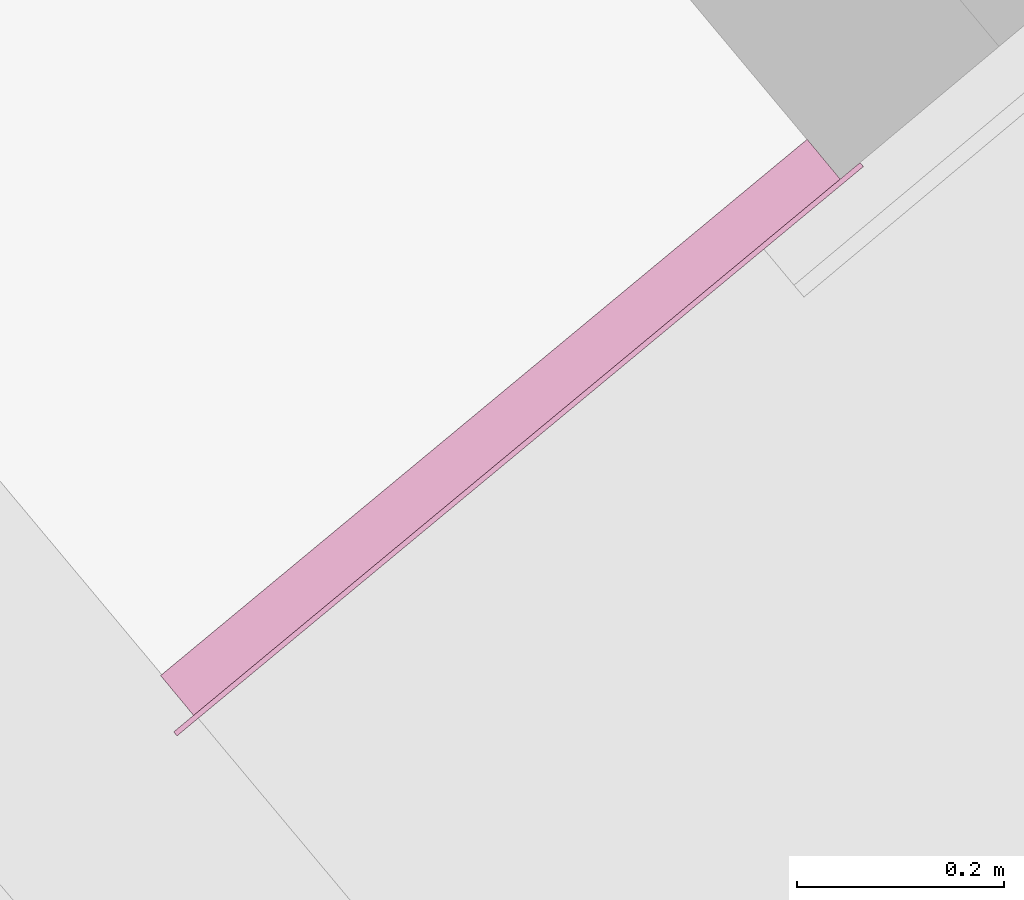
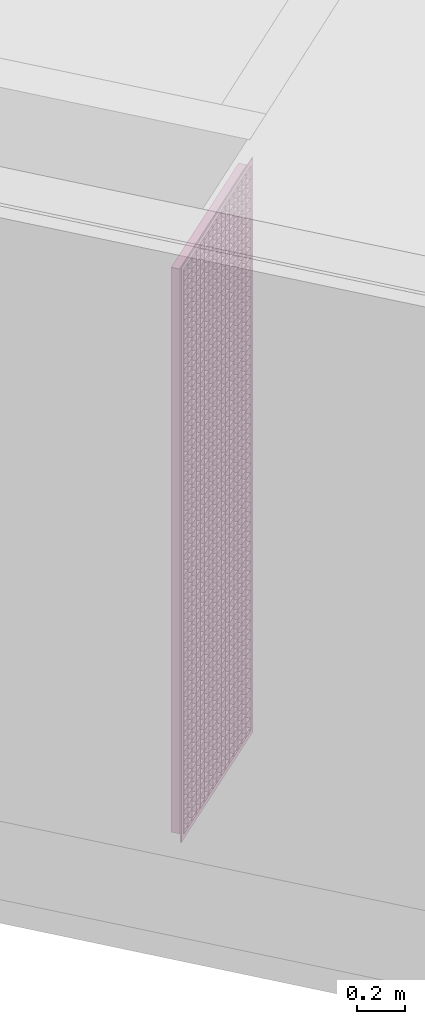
# One storey, part 14 of 14: 1 furniture element.
"""IFC4 building model written with IfcOpenShell, lengths in metres."""

import ifcopenshell
import ifcopenshell.guid

model = None  # the IFC model being written
_history = None  # IfcOwnerHistory: only IFC2X3 demands one
_inside = {}  # id of a spatial element -> (the spatial element, [elements in it])
_under = {}  # id of a project, library or spatial element -> (it, [spatial elements below it])
_declared = {}  # id of a project -> (the project, [libraries it declares])
_typed = {}  # id of a type object -> (the type object, [elements of that type])
_made_of = {}  # id of a material, layer set ... -> (it, [elements and type objects made of it])


def new_model(schema):
    """Start an empty IFC model of exactly this schema.

    Asked for "IFC4X3", IfcOpenShell would pick the latest addendum, in which some entities
    have other attributes; the version numbers below select the first issue.
    IFC2X3 requires an IfcOwnerHistory on every rooted entity: one is made here for all.
    """
    global model, _history
    if schema == "IFC4X3":
        model = ifcopenshell.file(schema_version=(4, 3, 0, 0))
    else:
        model = ifcopenshell.file(schema=schema)
    _inside.clear()
    _under.clear()
    _declared.clear()
    _typed.clear()
    _made_of.clear()
    _history = None
    if model.schema == "IFC2X3":
        org = make("IfcOrganization", Name="unknown")
        user = make(
            "IfcPersonAndOrganization",
            ThePerson=make("IfcPerson", FamilyName="unknown"),
            TheOrganization=org,
        )
        app = make(
            "IfcApplication",
            ApplicationDeveloper=org,
            Version="unknown",
            ApplicationFullName="unknown",
            ApplicationIdentifier="unknown",
        )
        _history = make(
            "IfcOwnerHistory",
            OwningUser=user,
            OwningApplication=app,
            ChangeAction="ADDED",
            CreationDate=0,
        )
    return model


def make(cls, **values):
    """One entity of the class cls with the attributes given. An attribute that is None is left unset."""
    return model.create_entity(
        cls, **{name: value for name, value in values.items() if value is not None}
    )


def entity(cls, *values):
    """Any entity or typed value of the class cls, its attributes in the order of the schema. None: left unset."""
    e = model.create_entity(cls)
    for i, value in enumerate(values):
        if value is not None:
            e[i] = value
    return e


def rooted(cls, **values):
    """An entity with a GlobalId (a new one), such as an element, a storey or a relation."""
    return make(cls, GlobalId=ifcopenshell.guid.new(), OwnerHistory=_history, **values)


def si_unit(unit_type, name, prefix=None):
    """IfcSIUnit, for example si_unit("LENGTHUNIT", "METRE", prefix="MILLI")."""
    return make("IfcSIUnit", UnitType=unit_type, Prefix=prefix, Name=name)


def converted_unit(unit_type, name, factor, base, dimensions=None, offset=None):
    """IfcConversionBasedUnit, such as the inch: factor (a typed value) times the base unit."""
    return make(
        "IfcConversionBasedUnit"
        if offset is None
        else "IfcConversionBasedUnitWithOffset",
        ConversionOffset=offset,
        Dimensions=None
        if dimensions is None
        else entity("IfcDimensionalExponents", *dimensions),
        UnitType=unit_type,
        Name=name,
        ConversionFactor=make(
            "IfcMeasureWithUnit", ValueComponent=factor, UnitComponent=base
        ),
    )


def derived_unit(unit_type, elements):
    """IfcDerivedUnit: a product of units, each with its exponent."""
    return make(
        "IfcDerivedUnit",
        Elements=[
            make("IfcDerivedUnitElement", Unit=unit, Exponent=power)
            for unit, power in elements
        ],
        UnitType=unit_type,
    )


def assignment(units):
    """IfcUnitAssignment: the units of a project."""
    return None if units is None else make("IfcUnitAssignment", Units=units)


def point(xyz):
    """IfcCartesianPoint."""
    return None if xyz is None else make("IfcCartesianPoint", Coordinates=xyz)


def direction(xyz):
    """IfcDirection."""
    return None if xyz is None else make("IfcDirection", DirectionRatios=xyz)


def frame(location, z_axis=None, x_axis=None):
    """IfcAxis2Placement3D, a coordinate frame: its origin and axes. An axis left out is left unset."""
    return make(
        "IfcAxis2Placement3D",
        Location=point(location),
        Axis=direction(z_axis),
        RefDirection=direction(x_axis),
    )


def origin_with_axes():
    """The frame at (0, 0, 0) with the z axis (0, 0, 1) and the x axis (1, 0, 0) written out."""
    return frame((0.0, 0.0, 0.0), z_axis=(0.0, 0.0, 1.0), x_axis=(1.0, 0.0, 0.0))


def place(relative_to, where):
    """IfcLocalPlacement: puts the frame where relative to a parent placement (None: the world)."""
    return make(
        "IfcLocalPlacement", PlacementRelTo=relative_to, RelativePlacement=where
    )


def context(
    kind, dimensions, precision=None, world=None, true_north=None, identifier=None
):
    """IfcGeometricRepresentationContext, for example the 3D "Model" context."""
    return make(
        "IfcGeometricRepresentationContext",
        ContextIdentifier=identifier,
        ContextType=kind,
        CoordinateSpaceDimension=dimensions,
        Precision=precision,
        WorldCoordinateSystem=world,
        TrueNorth=true_north,
    )


def subcontext(parent, identifier, kind, view, scale=None):
    """IfcGeometricRepresentationSubContext, for example "Body" below "Model"."""
    return make(
        "IfcGeometricRepresentationSubContext",
        ContextIdentifier=identifier,
        ContextType=kind,
        ParentContext=parent,
        TargetScale=scale,
        TargetView=view,
    )


def project(units=None, contexts=None):
    """IfcProject with its units and contexts."""
    return rooted(
        "IfcProject",
        Name="project",
        RepresentationContexts=contexts,
        UnitsInContext=assignment(units),
    )


def spatial(cls, under=None, at=None, **own):
    """A site, building, storey or space (cls), placed at a placement, below another one or the project."""
    s = rooted(cls, ObjectPlacement=at, **own)
    if under is not None:
        _under.setdefault(under.id(), (under, []))[1].append(s)
    return s


def point_list(points):
    """IfcCartesianPointList2D or 3D."""
    cls = (
        "IfcCartesianPointList2D" if len(points[0]) == 2 else "IfcCartesianPointList3D"
    )
    return make(cls, CoordList=points)


def polygons(points, faces, closed=None, point_numbers=None):
    """IfcPolygonalFaceSet: a face is its outer loop, then its inner loops; points numbered from 1."""
    made = []
    for loops in faces:
        if len(loops) == 1:
            made.append(make("IfcIndexedPolygonalFace", CoordIndex=loops[0]))
        else:
            made.append(
                make(
                    "IfcIndexedPolygonalFaceWithVoids",
                    CoordIndex=loops[0],
                    InnerCoordIndices=loops[1:],
                )
            )
    return make(
        "IfcPolygonalFaceSet",
        Coordinates=point_list(points),
        Closed=closed,
        Faces=made,
        PnIndex=point_numbers,
    )


def shape(context_of_items, identifier, shape_type, items):
    """IfcShapeRepresentation: the items that make up one representation, for example the "Body"."""
    return make(
        "IfcShapeRepresentation",
        ContextOfItems=context_of_items,
        RepresentationIdentifier=identifier,
        RepresentationType=shape_type,
        Items=items,
    )


def made_of(thing, what):
    """Note that an element or type object is made of a material, layer set ...; save() writes the relation."""
    if what is not None:
        _made_of.setdefault(what.id(), (what, []))[1].append(thing)
    return thing


def type_object(cls, material=None, **own):
    """A type object (cls), such as IfcWallType, which elements share."""
    return made_of(rooted(cls, **own), material)


def element(
    cls,
    number,
    at=None,
    inside=None,
    cuts=None,
    type_object=None,
    material=None,
    context=None,
    identifier="Body",
    shape_type=None,
    held_by="IfcProductDefinitionShape",
    body=None,
    shapes=None,
    **own,
):
    """One element of the class cls, such as IfcWall. Its Tag is "e" and its number.

    at: its placement. inside: the storey or other place that contains it. cuts: it is an
    opening in that element (IfcRelVoidsElement). A single representation is given by context,
    identifier, shape_type and body (its items); several are given by shapes. held_by: the class
    of the entity that holds the representations. save() writes the other relations.
    """
    e = rooted(cls, Tag="e%d" % number, ObjectPlacement=at, **own)
    if body is not None:
        shapes = [shape(context, identifier, shape_type, body)]
    if shapes is not None:
        e.Representation = make(held_by, Representations=shapes)
    if inside is not None:
        _inside.setdefault(inside.id(), (inside, []))[1].append(e)
    if cuts is not None:
        rooted(
            "IfcRelVoidsElement", RelatingBuildingElement=cuts, RelatedOpeningElement=e
        )
    if type_object is not None:
        _typed.setdefault(type_object.id(), (type_object, []))[1].append(e)
    return made_of(e, material)


def aggregate(whole, parts):
    """IfcRelAggregates: a whole, such as a stair, and the parts it consists of."""
    return rooted("IfcRelAggregates", RelatingObject=whole, RelatedObjects=parts)


def save(model, path):
    """Write the relations noted so far, then the file.

    IfcRelAggregates (storeys below a building ...), IfcRelContainedInSpatialStructure (elements
    in a storey), IfcRelDefinesByType, IfcRelAssociatesMaterial and IfcRelDeclares: one each for
    every whole, place, type object, material and project.
    """
    for whole, parts in _under.values():
        aggregate(whole, parts)
    for where, things in _inside.values():
        rooted(
            "IfcRelContainedInSpatialStructure",
            RelatedElements=things,
            RelatingStructure=where,
        )
    for kind, things in _typed.values():
        rooted("IfcRelDefinesByType", RelatedObjects=things, RelatingType=kind)
    for what, things in _made_of.values():
        rooted("IfcRelAssociatesMaterial", RelatedObjects=things, RelatingMaterial=what)
    for by, libraries in _declared.values():
        rooted("IfcRelDeclares", RelatingContext=by, RelatedDefinitions=libraries)
    model.write(path)


model = new_model("IFC4")

# Units and contexts
model_context = context("Model", 3, precision=1e-05, world=origin_with_axes(), true_north=direction((0.0, 1.0)))
body_context = subcontext(model_context, "Body", "Model", "MODEL_VIEW")
ifc_project = project(units=[si_unit("LENGTHUNIT", "METRE"), si_unit("AREAUNIT", "SQUARE_METRE"), si_unit("VOLUMEUNIT", "CUBIC_METRE"), converted_unit("PLANEANGLEUNIT", "DEGREE", entity("IfcPlaneAngleMeasure", 0.0174532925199), si_unit("PLANEANGLEUNIT", "RADIAN"), dimensions=[0, 0, 0, 0, 0, 0, 0]), converted_unit("TIMEUNIT", "Year", entity("IfcTimeMeasure", 31556926.0), si_unit("TIMEUNIT", "SECOND"), dimensions=[0, 0, 1, 0, 0, 0, 0]), si_unit("MASSUNIT", "GRAM", prefix="KILO"), si_unit("THERMODYNAMICTEMPERATUREUNIT", "DEGREE_CELSIUS"), si_unit("LUMINOUSINTENSITYUNIT", "LUMEN"), si_unit("ENERGYUNIT", "JOULE", prefix="MEGA"), derived_unit("THERMALCONDUCTANCEUNIT", [(si_unit("POWERUNIT", "WATT"), 1), (si_unit("LENGTHUNIT", "METRE"), -1), (si_unit("THERMODYNAMICTEMPERATUREUNIT", "KELVIN"), -1)]), derived_unit("SPECIFICHEATCAPACITYUNIT", [(si_unit("ENERGYUNIT", "JOULE"), 1), (si_unit("MASSUNIT", "GRAM", prefix="KILO"), -1), (si_unit("THERMODYNAMICTEMPERATUREUNIT", "KELVIN"), -1)]), derived_unit("MASSDENSITYUNIT", [(si_unit("MASSUNIT", "GRAM", prefix="KILO"), 1), (si_unit("VOLUMEUNIT", "CUBIC_METRE"), -1)])], contexts=[model_context])

# Site, building, storey, space
site_placement = place(None, frame((-0.00153261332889, -0.00661245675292, 0.0), z_axis=(0.0, 0.0, 1.0), x_axis=(1.0, 0.0, 0.0)))
site = spatial("IfcSite", under=ifc_project, at=site_placement, Name="Gelände", CompositionType="ELEMENT")
building_placement = place(site_placement, origin_with_axes())
building = spatial("IfcBuilding", under=site, at=building_placement, Name="Gebäude", CompositionType="ELEMENT")
storey_placement = place(building_placement, frame((0.0, 0.0, -3.3), z_axis=(0.0, 0.0, 1.0), x_axis=(1.0, 0.0, 0.0)))
storey = spatial("IfcBuildingStorey", under=building, at=storey_placement, Name="UG1", CompositionType="ELEMENT", Elevation=-3.3)
space_placement = place(storey_placement, frame((-11.8951769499, 23.5097960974, 0.0), z_axis=(0.0, 0.0, 1.0), x_axis=(0.641209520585, -0.767365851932, 0.0)))
space = spatial("IfcSpace", under=storey, at=space_placement, CompositionType="ELEMENT", PredefinedType="NOTDEFINED")

# Furniture
furniture_type = type_object("IfcFurnitureType", Name="Seitenwand-Gitter 26", AssemblyPlace="NOTDEFINED", PredefinedType="NOTDEFINED")
furniture_placement = place(space_placement, frame((10.8978932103, 0.404383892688, 1.309), z_axis=(0.0, 0.0, 1.0), x_axis=(0.0037065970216, 0.999993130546, 0.0)))
element("IfcFurniture", 1, at=furniture_placement, inside=space, type_object=furniture_type, Name="Objekt-0002", PredefinedType="NOTDEFINED", context=body_context, shape_type="Tessellation", body=[
    polygons([(0.431, -0.005, -1.466), (-0.431, -0.005, -1.466), (-0.431, 0.0, -1.466), (0.431, 0.0, -1.466), (0.431, -0.005, 1.466), (-0.431, -0.005, 1.466), (0.406, -0.005, -1.441), (-0.406, -0.005, -1.441), (-0.406, -0.005, 1.441), (0.406, -0.005, 1.441), (-0.431, 0.0, 1.466), (0.431, 0.0, 1.466), (0.406, 0.0, -1.441), (0.406, 0.0, 1.441), (-0.406, 0.0, 1.441), (-0.406, 0.0, -1.441)], [[[1, 2, 3, 4]], [[1, 5, 6, 2], [7, 8, 9, 10]], [[2, 6, 11, 3]], [[4, 3, 11, 12], [13, 14, 15, 16]], [[5, 1, 4, 12]], [[6, 5, 12, 11]], [[8, 7, 13, 16]], [[9, 8, 16, 15]], [[10, 9, 15, 14]], [[7, 10, 14, 13]]], closed=True),
    polygons([(-0.405, -0.005, -1.425), (0.405, -0.005, -1.425), (0.405, 0.02, -1.425), (-0.405, 0.02, -1.425)], [[[1, 2, 3, 4]]], closed=False),
    polygons([(-0.405, -0.005, -1.375), (0.405, -0.005, -1.375), (0.405, 0.02, -1.375), (-0.405, 0.02, -1.375)], [[[1, 2, 3, 4]]], closed=False),
    polygons([(-0.405, -0.005, -1.325), (0.405, -0.005, -1.325), (0.405, 0.02, -1.325), (-0.405, 0.02, -1.325)], [[[1, 2, 3, 4]]], closed=False),
    polygons([(-0.405, -0.005, -1.275), (0.405, -0.005, -1.275), (0.405, 0.02, -1.275), (-0.405, 0.02, -1.275)], [[[1, 2, 3, 4]]], closed=False),
    polygons([(-0.405, -0.005, -1.225), (0.405, -0.005, -1.225), (0.405, 0.02, -1.225), (-0.405, 0.02, -1.225)], [[[1, 2, 3, 4]]], closed=False),
    polygons([(-0.405, -0.005, -1.175), (0.405, -0.005, -1.175), (0.405, 0.02, -1.175), (-0.405, 0.02, -1.175)], [[[1, 2, 3, 4]]], closed=False),
    polygons([(-0.405, -0.005, -1.125), (0.405, -0.005, -1.125), (0.405, 0.02, -1.125), (-0.405, 0.02, -1.125)], [[[1, 2, 3, 4]]], closed=False),
    polygons([(-0.405, -0.005, -1.075), (0.405, -0.005, -1.075), (0.405, 0.02, -1.075), (-0.405, 0.02, -1.075)], [[[1, 2, 3, 4]]], closed=False),
    polygons([(-0.405, -0.005, -1.025), (0.405, -0.005, -1.025), (0.405, 0.02, -1.025), (-0.405, 0.02, -1.025)], [[[1, 2, 3, 4]]], closed=False),
    polygons([(-0.405, -0.005, -0.975), (0.405, -0.005, -0.975), (0.405, 0.02, -0.975), (-0.405, 0.02, -0.975)], [[[1, 2, 3, 4]]], closed=False),
    polygons([(-0.405, -0.005, -0.925), (0.405, -0.005, -0.925), (0.405, 0.02, -0.925), (-0.405, 0.02, -0.925)], [[[1, 2, 3, 4]]], closed=False),
    polygons([(-0.405, -0.005, -0.875), (0.405, -0.005, -0.875), (0.405, 0.02, -0.875), (-0.405, 0.02, -0.875)], [[[1, 2, 3, 4]]], closed=False),
    polygons([(-0.405, -0.005, -0.825), (0.405, -0.005, -0.825), (0.405, 0.02, -0.825), (-0.405, 0.02, -0.825)], [[[1, 2, 3, 4]]], closed=False),
    polygons([(-0.405, -0.005, -0.775), (0.405, -0.005, -0.775), (0.405, 0.02, -0.775), (-0.405, 0.02, -0.775)], [[[1, 2, 3, 4]]], closed=False),
    polygons([(-0.405, -0.005, -0.725), (0.405, -0.005, -0.725), (0.405, 0.02, -0.725), (-0.405, 0.02, -0.725)], [[[1, 2, 3, 4]]], closed=False),
    polygons([(-0.405, -0.005, -0.675), (0.405, -0.005, -0.675), (0.405, 0.02, -0.675), (-0.405, 0.02, -0.675)], [[[1, 2, 3, 4]]], closed=False),
    polygons([(-0.405, -0.005, -0.625), (0.405, -0.005, -0.625), (0.405, 0.02, -0.625), (-0.405, 0.02, -0.625)], [[[1, 2, 3, 4]]], closed=False),
    polygons([(-0.405, -0.005, -0.575), (0.405, -0.005, -0.575), (0.405, 0.02, -0.575), (-0.405, 0.02, -0.575)], [[[1, 2, 3, 4]]], closed=False),
    polygons([(-0.405, -0.005, -0.525), (0.405, -0.005, -0.525), (0.405, 0.02, -0.525), (-0.405, 0.02, -0.525)], [[[1, 2, 3, 4]]], closed=False),
    polygons([(-0.405, -0.005, -0.475), (0.405, -0.005, -0.475), (0.405, 0.02, -0.475), (-0.405, 0.02, -0.475)], [[[1, 2, 3, 4]]], closed=False),
    polygons([(-0.405, -0.005, -0.425), (0.405, -0.005, -0.425), (0.405, 0.02, -0.425), (-0.405, 0.02, -0.425)], [[[1, 2, 3, 4]]], closed=False),
    polygons([(-0.405, -0.005, -0.375), (0.405, -0.005, -0.375), (0.405, 0.02, -0.375), (-0.405, 0.02, -0.375)], [[[1, 2, 3, 4]]], closed=False),
    polygons([(-0.405, -0.005, -0.325), (0.405, -0.005, -0.325), (0.405, 0.02, -0.325), (-0.405, 0.02, -0.325)], [[[1, 2, 3, 4]]], closed=False),
    polygons([(-0.405, -0.005, -0.275), (0.405, -0.005, -0.275), (0.405, 0.02, -0.275), (-0.405, 0.02, -0.275)], [[[1, 2, 3, 4]]], closed=False),
    polygons([(-0.405, -0.005, -0.225), (0.405, -0.005, -0.225), (0.405, 0.02, -0.225), (-0.405, 0.02, -0.225)], [[[1, 2, 3, 4]]], closed=False),
    polygons([(-0.405, -0.005, -0.175), (0.405, -0.005, -0.175), (0.405, 0.02, -0.175), (-0.405, 0.02, -0.175)], [[[1, 2, 3, 4]]], closed=False),
    polygons([(-0.405, -0.005, -0.125), (0.405, -0.005, -0.125), (0.405, 0.02, -0.125), (-0.405, 0.02, -0.125)], [[[1, 2, 3, 4]]], closed=False),
    polygons([(-0.405, -0.005, -0.075), (0.405, -0.005, -0.075), (0.405, 0.02, -0.075), (-0.405, 0.02, -0.075)], [[[1, 2, 3, 4]]], closed=False),
    polygons([(-0.405, -0.005, -0.025), (0.405, -0.005, -0.025), (0.405, 0.02, -0.025), (-0.405, 0.02, -0.025)], [[[1, 2, 3, 4]]], closed=False),
    polygons([(-0.405, -0.005, 0.025), (0.405, -0.005, 0.025), (0.405, 0.02, 0.025), (-0.405, 0.02, 0.025)], [[[1, 2, 3, 4]]], closed=False),
    polygons([(-0.405, -0.005, 0.075), (0.405, -0.005, 0.075), (0.405, 0.02, 0.075), (-0.405, 0.02, 0.075)], [[[1, 2, 3, 4]]], closed=False),
    polygons([(-0.405, -0.005, 0.125), (0.405, -0.005, 0.125), (0.405, 0.02, 0.125), (-0.405, 0.02, 0.125)], [[[1, 2, 3, 4]]], closed=False),
    polygons([(-0.405, -0.005, 0.175), (0.405, -0.005, 0.175), (0.405, 0.02, 0.175), (-0.405, 0.02, 0.175)], [[[1, 2, 3, 4]]], closed=False),
    polygons([(-0.405, -0.005, 0.225), (0.405, -0.005, 0.225), (0.405, 0.02, 0.225), (-0.405, 0.02, 0.225)], [[[1, 2, 3, 4]]], closed=False),
    polygons([(-0.405, -0.005, 0.275), (0.405, -0.005, 0.275), (0.405, 0.02, 0.275), (-0.405, 0.02, 0.275)], [[[1, 2, 3, 4]]], closed=False),
    polygons([(-0.405, -0.005, 0.325), (0.405, -0.005, 0.325), (0.405, 0.02, 0.325), (-0.405, 0.02, 0.325)], [[[1, 2, 3, 4]]], closed=False),
    polygons([(-0.405, -0.005, 0.375), (0.405, -0.005, 0.375), (0.405, 0.02, 0.375), (-0.405, 0.02, 0.375)], [[[1, 2, 3, 4]]], closed=False),
    polygons([(-0.405, -0.005, 0.425), (0.405, -0.005, 0.425), (0.405, 0.02, 0.425), (-0.405, 0.02, 0.425)], [[[1, 2, 3, 4]]], closed=False),
    polygons([(-0.405, -0.005, 0.475), (0.405, -0.005, 0.475), (0.405, 0.02, 0.475), (-0.405, 0.02, 0.475)], [[[1, 2, 3, 4]]], closed=False),
    polygons([(-0.405, -0.005, 0.525), (0.405, -0.005, 0.525), (0.405, 0.02, 0.525), (-0.405, 0.02, 0.525)], [[[1, 2, 3, 4]]], closed=False),
    polygons([(-0.405, -0.005, 0.575), (0.405, -0.005, 0.575), (0.405, 0.02, 0.575), (-0.405, 0.02, 0.575)], [[[1, 2, 3, 4]]], closed=False),
    polygons([(-0.405, -0.005, 0.625), (0.405, -0.005, 0.625), (0.405, 0.02, 0.625), (-0.405, 0.02, 0.625)], [[[1, 2, 3, 4]]], closed=False),
    polygons([(-0.405, -0.005, 0.675), (0.405, -0.005, 0.675), (0.405, 0.02, 0.675), (-0.405, 0.02, 0.675)], [[[1, 2, 3, 4]]], closed=False),
    polygons([(-0.405, -0.005, 0.725), (0.405, -0.005, 0.725), (0.405, 0.02, 0.725), (-0.405, 0.02, 0.725)], [[[1, 2, 3, 4]]], closed=False),
    polygons([(-0.405, -0.005, 0.775), (0.405, -0.005, 0.775), (0.405, 0.02, 0.775), (-0.405, 0.02, 0.775)], [[[1, 2, 3, 4]]], closed=False),
    polygons([(-0.405, -0.005, 0.825), (0.405, -0.005, 0.825), (0.405, 0.02, 0.825), (-0.405, 0.02, 0.825)], [[[1, 2, 3, 4]]], closed=False),
    polygons([(-0.405, -0.005, 0.875), (0.405, -0.005, 0.875), (0.405, 0.02, 0.875), (-0.405, 0.02, 0.875)], [[[1, 2, 3, 4]]], closed=False),
    polygons([(-0.405, -0.005, 0.925), (0.405, -0.005, 0.925), (0.405, 0.02, 0.925), (-0.405, 0.02, 0.925)], [[[1, 2, 3, 4]]], closed=False),
    polygons([(-0.405, -0.005, 0.975), (0.405, -0.005, 0.975), (0.405, 0.02, 0.975), (-0.405, 0.02, 0.975)], [[[1, 2, 3, 4]]], closed=False),
    polygons([(-0.405, -0.005, 1.025), (0.405, -0.005, 1.025), (0.405, 0.02, 1.025), (-0.405, 0.02, 1.025)], [[[1, 2, 3, 4]]], closed=False),
    polygons([(-0.405, -0.005, 1.075), (0.405, -0.005, 1.075), (0.405, 0.02, 1.075), (-0.405, 0.02, 1.075)], [[[1, 2, 3, 4]]], closed=False),
    polygons([(-0.405, -0.005, 1.125), (0.405, -0.005, 1.125), (0.405, 0.02, 1.125), (-0.405, 0.02, 1.125)], [[[1, 2, 3, 4]]], closed=False),
    polygons([(-0.405, -0.005, 1.175), (0.405, -0.005, 1.175), (0.405, 0.02, 1.175), (-0.405, 0.02, 1.175)], [[[1, 2, 3, 4]]], closed=False),
    polygons([(-0.405, -0.005, 1.225), (0.405, -0.005, 1.225), (0.405, 0.02, 1.225), (-0.405, 0.02, 1.225)], [[[1, 2, 3, 4]]], closed=False),
    polygons([(-0.405, -0.005, 1.275), (0.405, -0.005, 1.275), (0.405, 0.02, 1.275), (-0.405, 0.02, 1.275)], [[[1, 2, 3, 4]]], closed=False),
    polygons([(-0.405, -0.005, 1.325), (0.405, -0.005, 1.325), (0.405, 0.02, 1.325), (-0.405, 0.02, 1.325)], [[[1, 2, 3, 4]]], closed=False),
    polygons([(-0.405, -0.005, 1.375), (0.405, -0.005, 1.375), (0.405, 0.02, 1.375), (-0.405, 0.02, 1.375)], [[[1, 2, 3, 4]]], closed=False),
    polygons([(-0.405, -0.005, 1.425), (0.405, -0.005, 1.425), (0.405, 0.02, 1.425), (-0.405, 0.02, 1.425)], [[[1, 2, 3, 4]]], closed=False),
    polygons([(0.4, -0.005, 1.44), (0.4, -0.005, -1.44), (0.4, 0.02, -1.44), (0.4, 0.02, 1.44)], [[[1, 2, 3, 4]]], closed=False),
    polygons([(0.35, -0.005, 1.44), (0.35, -0.005, -1.44), (0.35, 0.02, -1.44), (0.35, 0.02, 1.44)], [[[1, 2, 3, 4]]], closed=False),
    polygons([(0.3, -0.005, 1.44), (0.3, -0.005, -1.44), (0.3, 0.02, -1.44), (0.3, 0.02, 1.44)], [[[1, 2, 3, 4]]], closed=False),
    polygons([(0.25, -0.005, 1.44), (0.25, -0.005, -1.44), (0.25, 0.02, -1.44), (0.25, 0.02, 1.44)], [[[1, 2, 3, 4]]], closed=False),
    polygons([(0.2, -0.005, 1.44), (0.2, -0.005, -1.44), (0.2, 0.02, -1.44), (0.2, 0.02, 1.44)], [[[1, 2, 3, 4]]], closed=False),
    polygons([(0.15, -0.005, 1.44), (0.15, -0.005, -1.44), (0.15, 0.02, -1.44), (0.15, 0.02, 1.44)], [[[1, 2, 3, 4]]], closed=False),
    polygons([(0.1, -0.005, 1.44), (0.1, -0.005, -1.44), (0.1, 0.02, -1.44), (0.1, 0.02, 1.44)], [[[1, 2, 3, 4]]], closed=False),
    polygons([(0.05, -0.005, 1.44), (0.05, -0.005, -1.44), (0.05, 0.02, -1.44), (0.05, 0.02, 1.44)], [[[1, 2, 3, 4]]], closed=False),
    polygons([(0.0, -0.005, 1.44), (0.0, -0.005, -1.44), (0.0, 0.02, -1.44), (0.0, 0.02, 1.44)], [[[1, 2, 3, 4]]], closed=False),
    polygons([(-0.05, -0.005, 1.44), (-0.05, -0.005, -1.44), (-0.05, 0.02, -1.44), (-0.05, 0.02, 1.44)], [[[1, 2, 3, 4]]], closed=False),
    polygons([(-0.1, -0.005, 1.44), (-0.1, -0.005, -1.44), (-0.1, 0.02, -1.44), (-0.1, 0.02, 1.44)], [[[1, 2, 3, 4]]], closed=False),
    polygons([(-0.15, -0.005, 1.44), (-0.15, -0.005, -1.44), (-0.15, 0.02, -1.44), (-0.15, 0.02, 1.44)], [[[1, 2, 3, 4]]], closed=False),
    polygons([(-0.2, -0.005, 1.44), (-0.2, -0.005, -1.44), (-0.2, 0.02, -1.44), (-0.2, 0.02, 1.44)], [[[1, 2, 3, 4]]], closed=False),
    polygons([(-0.25, -0.005, 1.44), (-0.25, -0.005, -1.44), (-0.25, 0.02, -1.44), (-0.25, 0.02, 1.44)], [[[1, 2, 3, 4]]], closed=False),
    polygons([(-0.3, -0.005, 1.44), (-0.3, -0.005, -1.44), (-0.3, 0.02, -1.44), (-0.3, 0.02, 1.44)], [[[1, 2, 3, 4]]], closed=False),
    polygons([(-0.35, -0.005, 1.44), (-0.35, -0.005, -1.44), (-0.35, 0.02, -1.44), (-0.35, 0.02, 1.44)], [[[1, 2, 3, 4]]], closed=False),
    polygons([(-0.4, -0.005, 1.44), (-0.4, -0.005, -1.44), (-0.4, 0.02, -1.44), (-0.4, 0.02, 1.44)], [[[1, 2, 3, 4]]], closed=False),
    polygons([(-0.406, 0.0, -1.441), (-0.406, 0.0, 1.441), (-0.406, 0.05, 1.441), (-0.406, 0.05, -1.441), (0.406, 0.0, 1.441), (0.406, 0.05, 1.441), (0.406, 0.0, -1.441), (0.406, 0.05, -1.441)], [[[1, 2, 3, 4]], [[2, 5, 6, 3]], [[7, 1, 4, 8]], [[5, 7, 8, 6]]], closed=False),
])

save(model, "model.ifc")
